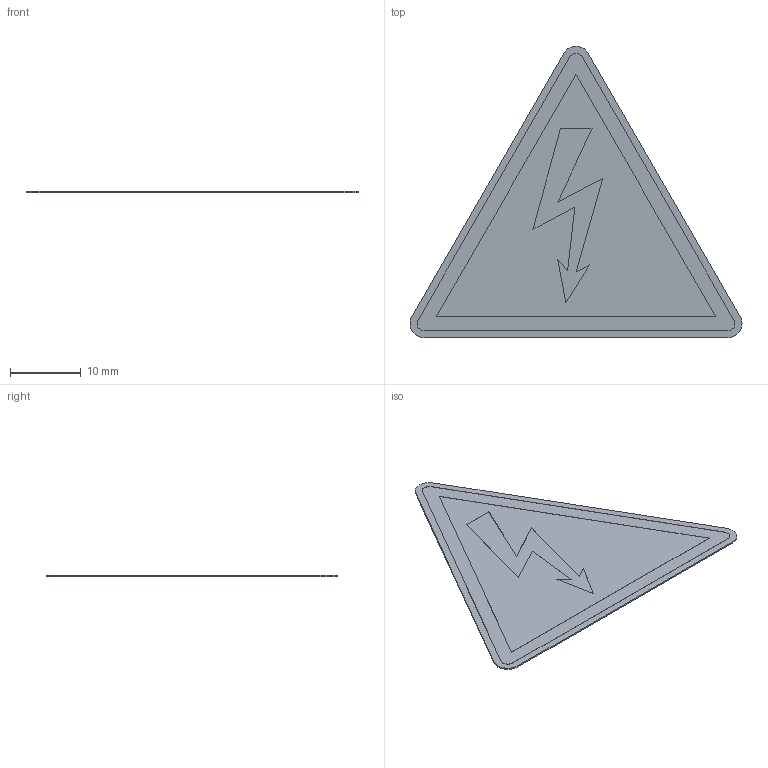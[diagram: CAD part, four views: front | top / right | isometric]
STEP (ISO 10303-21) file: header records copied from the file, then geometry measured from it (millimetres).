
FILE_DESCRIPTION (( 'STEP AP214' ), '1' );
FILE_NAME ('W012_Warnung vor elektrischer Spannung.STEP', '2022-02-22T08:14:16', ( '' ), ( '' ), 'SwSTEP 2.0', 'SolidWorks 2021', '' );
FILE_SCHEMA (( 'AUTOMOTIVE_DESIGN' ));
Length unit declared in the file: millimetre
Products named in the file (1): W012_Warnung vor elektrischer Spannung
Bounding box: 47.07 x 41.3 x 0.22 mm (x, y, z)
Volume: 220.9 mm3; surface area: 2182.9 mm2
Topology: 1 solids, 1 shells, 33 faces, 84 edges, 56 vertices
Faces by surface type: plane 25, cylinder 8
Entity records: 1281 total; most frequent: CARTESIAN_POINT 174, DIRECTION 168, ORIENTED_EDGE 168, EDGE_CURVE 84, LINE 68, VECTOR 68, VERTEX_POINT 56, AXIS2_PLACEMENT_3D 50
